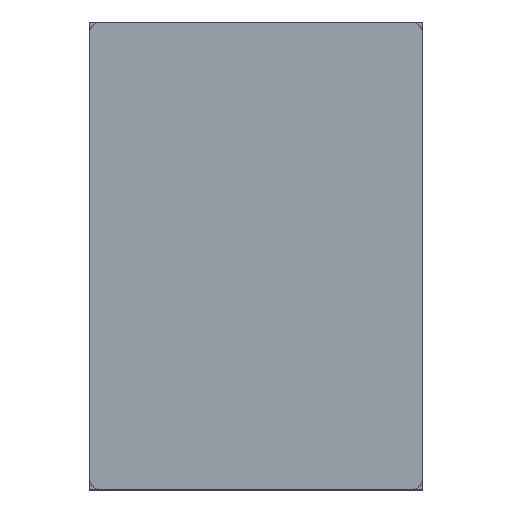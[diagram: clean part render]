
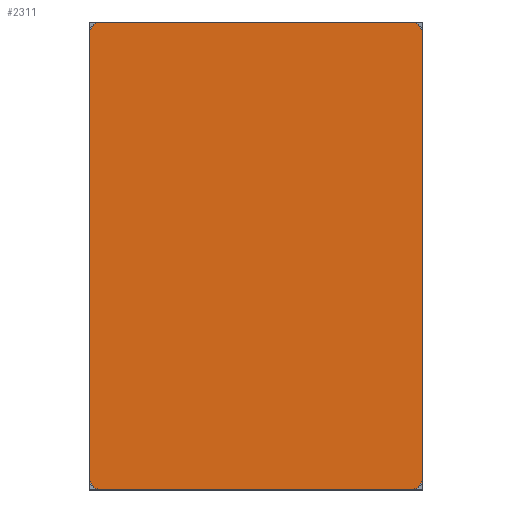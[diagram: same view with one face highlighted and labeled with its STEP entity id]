
A CAD part, top view. The second image highlights one B-rep face of the part: STEP entity #2311.
In plain terms, the highlighted planar face has unit normal (0, 0, 1).
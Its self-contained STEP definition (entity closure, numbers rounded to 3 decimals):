
#1676 = VERTEX_POINT('',#1677);
#1677 = CARTESIAN_POINT('',(-26.5,-40.,0.));
#1684 = PLANE('',#1685);
#1685 = AXIS2_PLACEMENT_3D('',#1686,#1687,#1688);
#1686 = CARTESIAN_POINT('',(-26.5,-40.,-2.5));
#1687 = DIRECTION('',(0.,1.,0.));
#1688 = DIRECTION('',(1.,0.,0.));
#1696 = CYLINDRICAL_SURFACE('',#1697,2.);
#1697 = AXIS2_PLACEMENT_3D('',#1698,#1699,#1700);
#1698 = CARTESIAN_POINT('',(-26.5,-38.,-2.5));
#1699 = DIRECTION('',(-0.,0.,-1.));
#1700 = DIRECTION('',(1.,0.,0.));
#1708 = EDGE_CURVE('',#1676,#1709,#1711,.T.);
#1709 = VERTEX_POINT('',#1710);
#1710 = CARTESIAN_POINT('',(26.5,-40.,0.));
#1711 = SURFACE_CURVE('',#1712,(#1716,#1723),.PCURVE_S1.);
#1712 = LINE('',#1713,#1714);
#1713 = CARTESIAN_POINT('',(-26.5,-40.,0.));
#1714 = VECTOR('',#1715,1.);
#1715 = DIRECTION('',(1.,0.,0.));
#1716 = PCURVE('',#1684,#1717);
#1717 = DEFINITIONAL_REPRESENTATION('',(#1718),#1722);
#1718 = LINE('',#1719,#1720);
#1719 = CARTESIAN_POINT('',(0.,-2.5));
#1720 = VECTOR('',#1721,1.);
#1721 = DIRECTION('',(1.,0.));
#1722 = ( GEOMETRIC_REPRESENTATION_CONTEXT(2) 
PARAMETRIC_REPRESENTATION_CONTEXT() REPRESENTATION_CONTEXT('2D SPACE',''
  ) );
#1723 = PCURVE('',#1724,#1729);
#1724 = PLANE('',#1725);
#1725 = AXIS2_PLACEMENT_3D('',#1726,#1727,#1728);
#1726 = CARTESIAN_POINT('',(0.,0.,0.)
  );
#1727 = DIRECTION('',(0.,0.,1.));
#1728 = DIRECTION('',(1.,0.,-0.));
#1729 = DEFINITIONAL_REPRESENTATION('',(#1730),#1734);
#1730 = LINE('',#1731,#1732);
#1731 = CARTESIAN_POINT('',(-26.5,-40.));
#1732 = VECTOR('',#1733,1.);
#1733 = DIRECTION('',(1.,0.));
#1734 = ( GEOMETRIC_REPRESENTATION_CONTEXT(2) 
PARAMETRIC_REPRESENTATION_CONTEXT() REPRESENTATION_CONTEXT('2D SPACE',''
  ) );
#1752 = CYLINDRICAL_SURFACE('',#1753,2.);
#1753 = AXIS2_PLACEMENT_3D('',#1754,#1755,#1756);
#1754 = CARTESIAN_POINT('',(26.5,-38.,-2.5));
#1755 = DIRECTION('',(-0.,0.,-1.));
#1756 = DIRECTION('',(1.,0.,0.));
#1796 = VERTEX_POINT('',#1797);
#1797 = CARTESIAN_POINT('',(-28.5,-38.,0.));
#1811 = PLANE('',#1812);
#1812 = AXIS2_PLACEMENT_3D('',#1813,#1814,#1815);
#1813 = CARTESIAN_POINT('',(-28.5,38.,-2.5));
#1814 = DIRECTION('',(1.,0.,-0.));
#1815 = DIRECTION('',(0.,-1.,0.));
#1823 = EDGE_CURVE('',#1796,#1676,#1824,.T.);
#1824 = SURFACE_CURVE('',#1825,(#1830,#1837),.PCURVE_S1.);
#1825 = CIRCLE('',#1826,2.);
#1826 = AXIS2_PLACEMENT_3D('',#1827,#1828,#1829);
#1827 = CARTESIAN_POINT('',(-26.5,-38.,0.));
#1828 = DIRECTION('',(0.,-0.,1.));
#1829 = DIRECTION('',(1.,0.,0.));
#1830 = PCURVE('',#1696,#1831);
#1831 = DEFINITIONAL_REPRESENTATION('',(#1832),#1836);
#1832 = LINE('',#1833,#1834);
#1833 = CARTESIAN_POINT('',(-0.,-2.5));
#1834 = VECTOR('',#1835,1.);
#1835 = DIRECTION('',(-1.,0.));
#1836 = ( GEOMETRIC_REPRESENTATION_CONTEXT(2) 
PARAMETRIC_REPRESENTATION_CONTEXT() REPRESENTATION_CONTEXT('2D SPACE',''
  ) );
#1837 = PCURVE('',#1724,#1838);
#1838 = DEFINITIONAL_REPRESENTATION('',(#1839),#1843);
#1839 = CIRCLE('',#1840,2.);
#1840 = AXIS2_PLACEMENT_2D('',#1841,#1842);
#1841 = CARTESIAN_POINT('',(-26.5,-38.));
#1842 = DIRECTION('',(1.,0.));
#1843 = ( GEOMETRIC_REPRESENTATION_CONTEXT(2) 
PARAMETRIC_REPRESENTATION_CONTEXT() REPRESENTATION_CONTEXT('2D SPACE',''
  ) );
#1872 = EDGE_CURVE('',#1709,#1873,#1875,.T.);
#1873 = VERTEX_POINT('',#1874);
#1874 = CARTESIAN_POINT('',(28.5,-38.,0.));
#1875 = SURFACE_CURVE('',#1876,(#1881,#1888),.PCURVE_S1.);
#1876 = CIRCLE('',#1877,2.);
#1877 = AXIS2_PLACEMENT_3D('',#1878,#1879,#1880);
#1878 = CARTESIAN_POINT('',(26.5,-38.,0.));
#1879 = DIRECTION('',(0.,-0.,1.));
#1880 = DIRECTION('',(1.,0.,0.));
#1881 = PCURVE('',#1752,#1882);
#1882 = DEFINITIONAL_REPRESENTATION('',(#1883),#1887);
#1883 = LINE('',#1884,#1885);
#1884 = CARTESIAN_POINT('',(-0.,-2.5));
#1885 = VECTOR('',#1886,1.);
#1886 = DIRECTION('',(-1.,0.));
#1887 = ( GEOMETRIC_REPRESENTATION_CONTEXT(2) 
PARAMETRIC_REPRESENTATION_CONTEXT() REPRESENTATION_CONTEXT('2D SPACE',''
  ) );
#1888 = PCURVE('',#1724,#1889);
#1889 = DEFINITIONAL_REPRESENTATION('',(#1890),#1894);
#1890 = CIRCLE('',#1891,2.);
#1891 = AXIS2_PLACEMENT_2D('',#1892,#1893);
#1892 = CARTESIAN_POINT('',(26.5,-38.));
#1893 = DIRECTION('',(1.,0.));
#1894 = ( GEOMETRIC_REPRESENTATION_CONTEXT(2) 
PARAMETRIC_REPRESENTATION_CONTEXT() REPRESENTATION_CONTEXT('2D SPACE',''
  ) );
#1912 = PLANE('',#1913);
#1913 = AXIS2_PLACEMENT_3D('',#1914,#1915,#1916);
#1914 = CARTESIAN_POINT('',(28.5,-38.,-2.5));
#1915 = DIRECTION('',(-1.,0.,0.));
#1916 = DIRECTION('',(0.,1.,0.));
#1991 = CYLINDRICAL_SURFACE('',#1992,2.);
#1992 = AXIS2_PLACEMENT_3D('',#1993,#1994,#1995);
#1993 = CARTESIAN_POINT('',(26.5,38.,-2.5));
#1994 = DIRECTION('',(-0.,0.,-1.));
#1995 = DIRECTION('',(1.,0.,0.));
#2019 = PLANE('',#2020);
#2020 = AXIS2_PLACEMENT_3D('',#2021,#2022,#2023);
#2021 = CARTESIAN_POINT('',(26.5,40.,-2.5));
#2022 = DIRECTION('',(0.,-1.,0.));
#2023 = DIRECTION('',(-1.,0.,0.));
#2048 = CYLINDRICAL_SURFACE('',#2049,2.);
#2049 = AXIS2_PLACEMENT_3D('',#2050,#2051,#2052);
#2050 = CARTESIAN_POINT('',(-26.5,38.,-2.5));
#2051 = DIRECTION('',(-0.,0.,-1.));
#2052 = DIRECTION('',(1.,0.,0.));
#2311 = ADVANCED_FACE('',(#2312),#1724,.T.);
#2312 = FACE_BOUND('',#2313,.T.);
#2313 = EDGE_LOOP('',(#2314,#2315,#2316,#2339,#2363,#2386,#2410,#2431));
#2314 = ORIENTED_EDGE('',*,*,#1708,.T.);
#2315 = ORIENTED_EDGE('',*,*,#1872,.T.);
#2316 = ORIENTED_EDGE('',*,*,#2317,.T.);
#2317 = EDGE_CURVE('',#1873,#2318,#2320,.T.);
#2318 = VERTEX_POINT('',#2319);
#2319 = CARTESIAN_POINT('',(28.5,38.,0.));
#2320 = SURFACE_CURVE('',#2321,(#2325,#2332),.PCURVE_S1.);
#2321 = LINE('',#2322,#2323);
#2322 = CARTESIAN_POINT('',(28.5,-38.,0.));
#2323 = VECTOR('',#2324,1.);
#2324 = DIRECTION('',(0.,1.,0.));
#2325 = PCURVE('',#1724,#2326);
#2326 = DEFINITIONAL_REPRESENTATION('',(#2327),#2331);
#2327 = LINE('',#2328,#2329);
#2328 = CARTESIAN_POINT('',(28.5,-38.));
#2329 = VECTOR('',#2330,1.);
#2330 = DIRECTION('',(0.,1.));
#2331 = ( GEOMETRIC_REPRESENTATION_CONTEXT(2) 
PARAMETRIC_REPRESENTATION_CONTEXT() REPRESENTATION_CONTEXT('2D SPACE',''
  ) );
#2332 = PCURVE('',#1912,#2333);
#2333 = DEFINITIONAL_REPRESENTATION('',(#2334),#2338);
#2334 = LINE('',#2335,#2336);
#2335 = CARTESIAN_POINT('',(0.,-2.5));
#2336 = VECTOR('',#2337,1.);
#2337 = DIRECTION('',(1.,0.));
#2338 = ( GEOMETRIC_REPRESENTATION_CONTEXT(2) 
PARAMETRIC_REPRESENTATION_CONTEXT() REPRESENTATION_CONTEXT('2D SPACE',''
  ) );
#2339 = ORIENTED_EDGE('',*,*,#2340,.T.);
#2340 = EDGE_CURVE('',#2318,#2341,#2343,.T.);
#2341 = VERTEX_POINT('',#2342);
#2342 = CARTESIAN_POINT('',(26.5,40.,0.));
#2343 = SURFACE_CURVE('',#2344,(#2349,#2356),.PCURVE_S1.);
#2344 = CIRCLE('',#2345,2.);
#2345 = AXIS2_PLACEMENT_3D('',#2346,#2347,#2348);
#2346 = CARTESIAN_POINT('',(26.5,38.,0.));
#2347 = DIRECTION('',(0.,-0.,1.));
#2348 = DIRECTION('',(1.,0.,0.));
#2349 = PCURVE('',#1724,#2350);
#2350 = DEFINITIONAL_REPRESENTATION('',(#2351),#2355);
#2351 = CIRCLE('',#2352,2.);
#2352 = AXIS2_PLACEMENT_2D('',#2353,#2354);
#2353 = CARTESIAN_POINT('',(26.5,38.));
#2354 = DIRECTION('',(1.,0.));
#2355 = ( GEOMETRIC_REPRESENTATION_CONTEXT(2) 
PARAMETRIC_REPRESENTATION_CONTEXT() REPRESENTATION_CONTEXT('2D SPACE',''
  ) );
#2356 = PCURVE('',#1991,#2357);
#2357 = DEFINITIONAL_REPRESENTATION('',(#2358),#2362);
#2358 = LINE('',#2359,#2360);
#2359 = CARTESIAN_POINT('',(-0.,-2.5));
#2360 = VECTOR('',#2361,1.);
#2361 = DIRECTION('',(-1.,0.));
#2362 = ( GEOMETRIC_REPRESENTATION_CONTEXT(2) 
PARAMETRIC_REPRESENTATION_CONTEXT() REPRESENTATION_CONTEXT('2D SPACE',''
  ) );
#2363 = ORIENTED_EDGE('',*,*,#2364,.T.);
#2364 = EDGE_CURVE('',#2341,#2365,#2367,.T.);
#2365 = VERTEX_POINT('',#2366);
#2366 = CARTESIAN_POINT('',(-26.5,40.,0.));
#2367 = SURFACE_CURVE('',#2368,(#2372,#2379),.PCURVE_S1.);
#2368 = LINE('',#2369,#2370);
#2369 = CARTESIAN_POINT('',(26.5,40.,0.));
#2370 = VECTOR('',#2371,1.);
#2371 = DIRECTION('',(-1.,0.,0.));
#2372 = PCURVE('',#1724,#2373);
#2373 = DEFINITIONAL_REPRESENTATION('',(#2374),#2378);
#2374 = LINE('',#2375,#2376);
#2375 = CARTESIAN_POINT('',(26.5,40.));
#2376 = VECTOR('',#2377,1.);
#2377 = DIRECTION('',(-1.,0.));
#2378 = ( GEOMETRIC_REPRESENTATION_CONTEXT(2) 
PARAMETRIC_REPRESENTATION_CONTEXT() REPRESENTATION_CONTEXT('2D SPACE',''
  ) );
#2379 = PCURVE('',#2019,#2380);
#2380 = DEFINITIONAL_REPRESENTATION('',(#2381),#2385);
#2381 = LINE('',#2382,#2383);
#2382 = CARTESIAN_POINT('',(0.,-2.5));
#2383 = VECTOR('',#2384,1.);
#2384 = DIRECTION('',(1.,0.));
#2385 = ( GEOMETRIC_REPRESENTATION_CONTEXT(2) 
PARAMETRIC_REPRESENTATION_CONTEXT() REPRESENTATION_CONTEXT('2D SPACE',''
  ) );
#2386 = ORIENTED_EDGE('',*,*,#2387,.T.);
#2387 = EDGE_CURVE('',#2365,#2388,#2390,.T.);
#2388 = VERTEX_POINT('',#2389);
#2389 = CARTESIAN_POINT('',(-28.5,38.,0.));
#2390 = SURFACE_CURVE('',#2391,(#2396,#2403),.PCURVE_S1.);
#2391 = CIRCLE('',#2392,2.);
#2392 = AXIS2_PLACEMENT_3D('',#2393,#2394,#2395);
#2393 = CARTESIAN_POINT('',(-26.5,38.,0.));
#2394 = DIRECTION('',(0.,-0.,1.));
#2395 = DIRECTION('',(1.,0.,0.));
#2396 = PCURVE('',#1724,#2397);
#2397 = DEFINITIONAL_REPRESENTATION('',(#2398),#2402);
#2398 = CIRCLE('',#2399,2.);
#2399 = AXIS2_PLACEMENT_2D('',#2400,#2401);
#2400 = CARTESIAN_POINT('',(-26.5,38.));
#2401 = DIRECTION('',(1.,0.));
#2402 = ( GEOMETRIC_REPRESENTATION_CONTEXT(2) 
PARAMETRIC_REPRESENTATION_CONTEXT() REPRESENTATION_CONTEXT('2D SPACE',''
  ) );
#2403 = PCURVE('',#2048,#2404);
#2404 = DEFINITIONAL_REPRESENTATION('',(#2405),#2409);
#2405 = LINE('',#2406,#2407);
#2406 = CARTESIAN_POINT('',(-0.,-2.5));
#2407 = VECTOR('',#2408,1.);
#2408 = DIRECTION('',(-1.,0.));
#2409 = ( GEOMETRIC_REPRESENTATION_CONTEXT(2) 
PARAMETRIC_REPRESENTATION_CONTEXT() REPRESENTATION_CONTEXT('2D SPACE',''
  ) );
#2410 = ORIENTED_EDGE('',*,*,#2411,.T.);
#2411 = EDGE_CURVE('',#2388,#1796,#2412,.T.);
#2412 = SURFACE_CURVE('',#2413,(#2417,#2424),.PCURVE_S1.);
#2413 = LINE('',#2414,#2415);
#2414 = CARTESIAN_POINT('',(-28.5,38.,0.));
#2415 = VECTOR('',#2416,1.);
#2416 = DIRECTION('',(0.,-1.,-0.));
#2417 = PCURVE('',#1724,#2418);
#2418 = DEFINITIONAL_REPRESENTATION('',(#2419),#2423);
#2419 = LINE('',#2420,#2421);
#2420 = CARTESIAN_POINT('',(-28.5,38.));
#2421 = VECTOR('',#2422,1.);
#2422 = DIRECTION('',(0.,-1.));
#2423 = ( GEOMETRIC_REPRESENTATION_CONTEXT(2) 
PARAMETRIC_REPRESENTATION_CONTEXT() REPRESENTATION_CONTEXT('2D SPACE',''
  ) );
#2424 = PCURVE('',#1811,#2425);
#2425 = DEFINITIONAL_REPRESENTATION('',(#2426),#2430);
#2426 = LINE('',#2427,#2428);
#2427 = CARTESIAN_POINT('',(0.,-2.5));
#2428 = VECTOR('',#2429,1.);
#2429 = DIRECTION('',(1.,0.));
#2430 = ( GEOMETRIC_REPRESENTATION_CONTEXT(2) 
PARAMETRIC_REPRESENTATION_CONTEXT() REPRESENTATION_CONTEXT('2D SPACE',''
  ) );
#2431 = ORIENTED_EDGE('',*,*,#1823,.T.);
